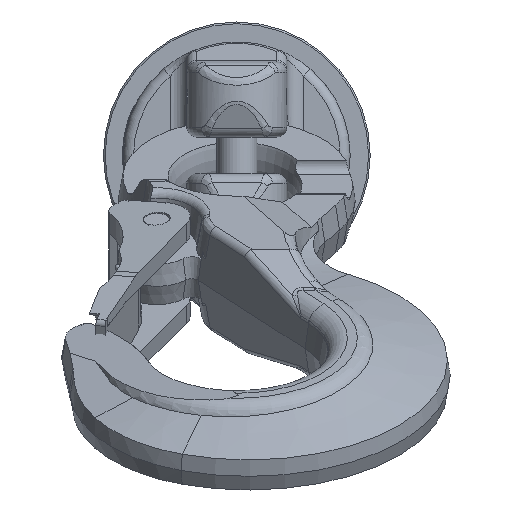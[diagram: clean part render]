
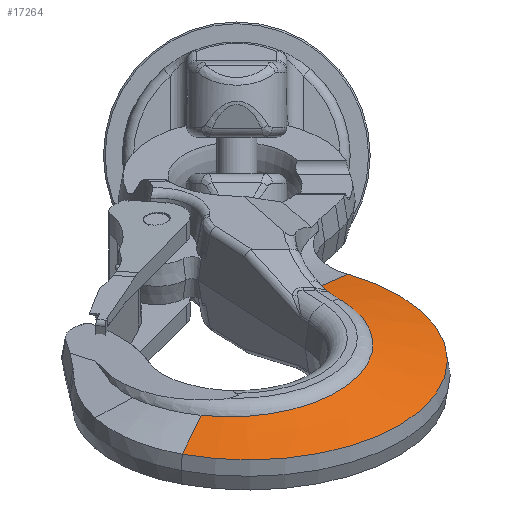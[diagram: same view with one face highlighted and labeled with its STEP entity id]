
A CAD part, left-side view. The second image highlights one B-rep face of the part: STEP entity #17264.
In plain terms, the highlighted conical face has half-angle 76 degrees and reference radius 48.512 mm.
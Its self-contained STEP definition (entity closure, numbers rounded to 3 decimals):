
#14318=CARTESIAN_POINT('',(24.436,9.644,
-36.262));
#14320=CARTESIAN_POINT('',(24.436,9.644,
-36.262));
#14321=CARTESIAN_POINT('',(24.555,9.667,
-36.087));
#14322=CARTESIAN_POINT('',(24.802,9.714,
-35.726));
#14323=CARTESIAN_POINT('',(25.069,9.761,
-35.342));
#14324=CARTESIAN_POINT('',(25.207,9.785,
-35.144));
#14353=DIRECTION('',(0.485,-0.242,-0.84));
#14354=VECTOR('',#14353,18.348);
#14355=CARTESIAN_POINT('',(24.436,9.644,
-36.262));
#14356=LINE('',#14355,#14354);
#14357=CARTESIAN_POINT('',(-10.734,9.438,
40.26));
#14358=CARTESIAN_POINT('',(-9.235,9.472,
40.643));
#14359=CARTESIAN_POINT('',(-6.188,9.542,
41.244));
#14360=CARTESIAN_POINT('',(-1.513,9.652,
41.627));
#14361=CARTESIAN_POINT('',(3.168,9.765,41.475));
#14362=CARTESIAN_POINT('',(7.757,9.877,40.804));
#14363=CARTESIAN_POINT('',(12.231,9.989,39.629));
#14364=CARTESIAN_POINT('',(16.583,10.1,37.944));
#14365=CARTESIAN_POINT('',(20.714,10.207,35.778));
#14366=CARTESIAN_POINT('',(24.551,10.31,33.18));
#14367=CARTESIAN_POINT('',(28.078,10.406,30.166));
#14368=CARTESIAN_POINT('',(31.259,10.494,26.762));
#14369=CARTESIAN_POINT('',(34.038,10.573,23.022));
#14370=CARTESIAN_POINT('',(36.385,10.64,18.99));
#14371=CARTESIAN_POINT('',(38.272,10.695,14.703));
#14372=CARTESIAN_POINT('',(39.665,10.737,10.246));
#14373=CARTESIAN_POINT('',(40.554,10.763,5.655));
#14374=CARTESIAN_POINT('',(40.927,10.774,
0.958));
#14375=CARTESIAN_POINT('',(40.768,10.77,
-3.756));
#14376=CARTESIAN_POINT('',(40.091,10.749,
-8.379));
#14377=CARTESIAN_POINT('',(38.896,10.714,
-12.923));
#14378=CARTESIAN_POINT('',(37.191,10.664,
-17.317));
#14379=CARTESIAN_POINT('',(35.014,10.601,
-21.469));
#14380=CARTESIAN_POINT('',(33.275,10.551,
-24.037));
#14381=CARTESIAN_POINT('',(32.339,10.525,
-25.266));
#14383=CARTESIAN_POINT('',(32.339,10.525,
-25.266));
#14384=CARTESIAN_POINT('',(31.794,10.509,
-25.982));
#14385=CARTESIAN_POINT('',(30.711,10.459,
-27.427));
#14386=CARTESIAN_POINT('',(29.096,10.327,
-29.643));
#14387=CARTESIAN_POINT('',(27.508,10.143,
-31.867));
#14388=CARTESIAN_POINT('',(26.477,9.993,
-33.331));
#14389=CARTESIAN_POINT('',(25.966,9.912,
-34.058));
#14391=CARTESIAN_POINT('',(25.966,9.912,
-34.058));
#14432=CARTESIAN_POINT('',(25.504,9.836,
-34.717));
#14433=CARTESIAN_POINT('',(25.584,9.85,
-34.603));
#14434=CARTESIAN_POINT('',(25.741,9.876,
-34.378));
#14435=CARTESIAN_POINT('',(25.892,9.9,
-34.164));
#14436=CARTESIAN_POINT('',(25.966,9.912,
-34.058));
#14616=DIRECTION('',(-0.323,-0.242,0.915));
#14617=VECTOR('',#14616,17.493);
#14618=CARTESIAN_POINT('',(-10.734,9.438,
40.26));
#14619=LINE('',#14618,#14617);
#14667=CARTESIAN_POINT('',(3.5,5.206,0.));
#14668=DIRECTION('',(0.,-1.,0.));
#14669=DIRECTION('',(0.5,0.,-0.866));
#14670=AXIS2_PLACEMENT_3D('',#14667,#14668,#14669);
#15737=CARTESIAN_POINT('',(25.207,9.785,
-35.144));
#15738=CARTESIAN_POINT('',(25.257,9.794,
-35.073));
#15739=CARTESIAN_POINT('',(25.356,9.811,
-34.93));
#15740=CARTESIAN_POINT('',(25.455,9.828,
-34.788));
#15741=CARTESIAN_POINT('',(25.504,9.836,
-34.717));
#16098=CARTESIAN_POINT('',(-10.734,9.438,
40.26));
#16099=CARTESIAN_POINT('',(-16.392,5.206,
56.263));
#16100=VERTEX_POINT('',#16098);
#16101=VERTEX_POINT('',#16099);
#16267=CARTESIAN_POINT('',(33.338,5.206,
-51.681));
#16268=VERTEX_POINT('',#16267);
#16346=VERTEX_POINT('',#14381);
#16438=VERTEX_POINT('',#14391);
#16440=VERTEX_POINT('',#14432);
#16444=VERTEX_POINT('',#14318);
#16445=VERTEX_POINT('',#14324);
#17243=CARTESIAN_POINT('',(3.5,7.989,0.));
#17244=DIRECTION('',(0.,-1.,0.));
#17245=DIRECTION('',(-0.5,0.,0.866));
#17246=AXIS2_PLACEMENT_3D('',#17243,#17244,#17245);
#17247=CONICAL_SURFACE('',#17246,48.512,76.);
#17249=ORIENTED_EDGE('',*,*,#17248,.F.);
#17251=ORIENTED_EDGE('',*,*,#17250,.F.);
#17252=ORIENTED_EDGE('',*,*,#17210,.F.);
#17253=ORIENTED_EDGE('',*,*,#17238,.T.);
#17255=ORIENTED_EDGE('',*,*,#17254,.T.);
#17257=ORIENTED_EDGE('',*,*,#17256,.F.);
#17259=ORIENTED_EDGE('',*,*,#17258,.T.);
#17261=ORIENTED_EDGE('',*,*,#17260,.T.);
#17262=EDGE_LOOP('',(#17249,#17251,#17252,#17253,#17255,#17257,#17259,#17261));
#17263=FACE_OUTER_BOUND('',#17262,.F.);
#17264=ADVANCED_FACE('',(#17263),#17247,.T.);
#14325=B_SPLINE_CURVE_WITH_KNOTS('',3,(#14320,#14321,#14322,#14323,#14324),
.UNSPECIFIED.,.F.,.F.,(4,1,4),(0.,0.5,1.),.UNSPECIFIED.);
#14382=B_SPLINE_CURVE_WITH_KNOTS('',3,(#14357,#14358,#14359,#14360,#14361,
#14362,#14363,#14364,#14365,#14366,#14367,#14368,#14369,#14370,#14371,#14372,
#14373,#14374,#14375,#14376,#14377,#14378,#14379,#14380,#14381),.UNSPECIFIED.,
.F.,.F.,(4,1,1,1,1,1,1,1,1,1,1,1,1,1,1,1,1,1,1,1,1,1,4),(0.,0.045,
0.091,0.136,0.182,0.227,
0.273,0.318,0.364,0.409,
0.455,0.5,0.545,0.591,0.636,
0.682,0.727,0.773,0.818,
0.864,0.909,0.955,1.),.UNSPECIFIED.);
#14390=B_SPLINE_CURVE_WITH_KNOTS('',3,(#14383,#14384,#14385,#14386,#14387,
#14388,#14389),.UNSPECIFIED.,.F.,.F.,(4,1,1,1,4),(0.,0.25,0.5,0.75,
1.),.UNSPECIFIED.);
#14437=B_SPLINE_CURVE_WITH_KNOTS('',3,(#14432,#14433,#14434,#14435,#14436),
.UNSPECIFIED.,.F.,.F.,(4,1,4),(0.,0.5,1.),.UNSPECIFIED.);
#14671=CIRCLE('',#14670,59.676);
#15742=B_SPLINE_CURVE_WITH_KNOTS('',3,(#15737,#15738,#15739,#15740,#15741),
.UNSPECIFIED.,.F.,.F.,(4,1,4),(0.,0.5,1.),.UNSPECIFIED.);
#17210=EDGE_CURVE('',#16444,#16445,#14325,.T.);
#17238=EDGE_CURVE('',#16444,#16268,#14356,.T.);
#17248=EDGE_CURVE('',#16440,#16438,#14437,.T.);
#17250=EDGE_CURVE('',#16445,#16440,#15742,.T.);
#17254=EDGE_CURVE('',#16268,#16101,#14671,.T.);
#17256=EDGE_CURVE('',#16100,#16101,#14619,.T.);
#17258=EDGE_CURVE('',#16100,#16346,#14382,.T.);
#17260=EDGE_CURVE('',#16346,#16438,#14390,.T.);
